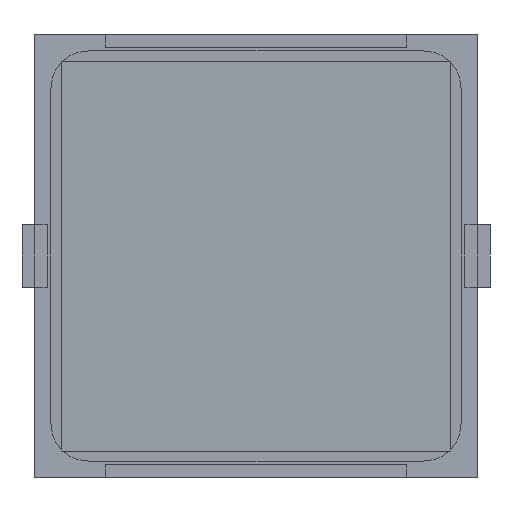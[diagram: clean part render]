
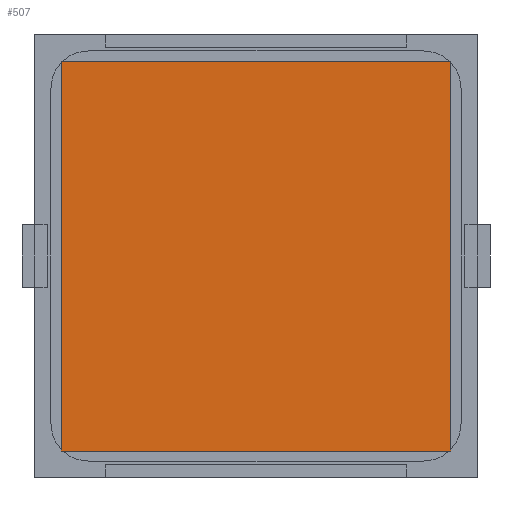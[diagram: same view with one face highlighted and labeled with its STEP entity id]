
A CAD part, front view. The second image highlights one B-rep face of the part: STEP entity #507.
In plain terms, the highlighted planar face has unit normal (0, -1, 0).
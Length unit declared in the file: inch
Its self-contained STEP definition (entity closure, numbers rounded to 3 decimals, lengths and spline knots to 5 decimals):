
#329 = VECTOR ( 'NONE', #7681, 39.37008 ) ;
#360 = DIRECTION ( 'NONE',  ( -1., 0., 0. ) ) ;
#507 = ADVANCED_FACE ( 'NONE', ( #5901 ), #10148, .F. ) ;
#1581 = VERTEX_POINT ( 'NONE', #13365 ) ;
#2496 = LINE ( 'NONE', #6899, #6627 ) ;
#2937 = LINE ( 'NONE', #12713, #6044 ) ;
#3259 = ORIENTED_EDGE ( 'NONE', *, *, #9350, .F. ) ;
#4505 = EDGE_CURVE ( 'NONE', #7193, #7962, #2496, .T. ) ;
#5049 = LINE ( 'NONE', #10409, #7344 ) ;
#5064 = DIRECTION ( 'NONE',  ( 0., 1., 0. ) ) ;
#5169 = DIRECTION ( 'NONE',  ( 1., 0., 0. ) ) ;
#5392 = LINE ( 'NONE', #11798, #329 ) ;
#5901 = FACE_OUTER_BOUND ( 'NONE', #6276, .T. ) ;
#6044 = VECTOR ( 'NONE', #5169, 39.37008 ) ;
#6244 = DIRECTION ( 'NONE',  ( 0., 0., -1. ) ) ;
#6276 = EDGE_LOOP ( 'NONE', ( #8907, #10644, #12463, #3259 ) ) ;
#6488 = CARTESIAN_POINT ( 'NONE',  ( 0.61024, -0.005, -0.61024 ) ) ;
#6627 = VECTOR ( 'NONE', #360, 39.37008 ) ;
#6899 = CARTESIAN_POINT ( 'NONE',  ( -0.61024, -0.005, -0.61024 ) ) ;
#7193 = VERTEX_POINT ( 'NONE', #6488 ) ;
#7344 = VECTOR ( 'NONE', #6244, 39.37008 ) ;
#7581 = EDGE_CURVE ( 'NONE', #7962, #8040, #5392, .T. ) ;
#7681 = DIRECTION ( 'NONE',  ( 0., 0., 1. ) ) ;
#7962 = VERTEX_POINT ( 'NONE', #11488 ) ;
#8040 = VERTEX_POINT ( 'NONE', #11187 ) ;
#8405 = CARTESIAN_POINT ( 'NONE',  ( -0.61024, -0.005, 0.61024 ) ) ;
#8523 = EDGE_CURVE ( 'NONE', #1581, #7193, #5049, .T. ) ;
#8907 = ORIENTED_EDGE ( 'NONE', *, *, #7581, .F. ) ;
#9350 = EDGE_CURVE ( 'NONE', #8040, #1581, #2937, .T. ) ;
#9941 = AXIS2_PLACEMENT_3D ( 'NONE', #8405, #5064, #10487 ) ;
#10148 = PLANE ( 'NONE',  #9941 ) ;
#10409 = CARTESIAN_POINT ( 'NONE',  ( 0.61024, -0.005, -0.61024 ) ) ;
#10487 = DIRECTION ( 'NONE',  ( 0., 0., 1. ) ) ;
#10644 = ORIENTED_EDGE ( 'NONE', *, *, #4505, .F. ) ;
#11187 = CARTESIAN_POINT ( 'NONE',  ( -0.61024, -0.005, 0.61024 ) ) ;
#11488 = CARTESIAN_POINT ( 'NONE',  ( -0.61024, -0.005, -0.61024 ) ) ;
#11798 = CARTESIAN_POINT ( 'NONE',  ( -0.61024, -0.005, -0.61024 ) ) ;
#12463 = ORIENTED_EDGE ( 'NONE', *, *, #8523, .F. ) ;
#12713 = CARTESIAN_POINT ( 'NONE',  ( -0.61024, -0.005, 0.61024 ) ) ;
#13365 = CARTESIAN_POINT ( 'NONE',  ( 0.61024, -0.005, 0.61024 ) ) ;
